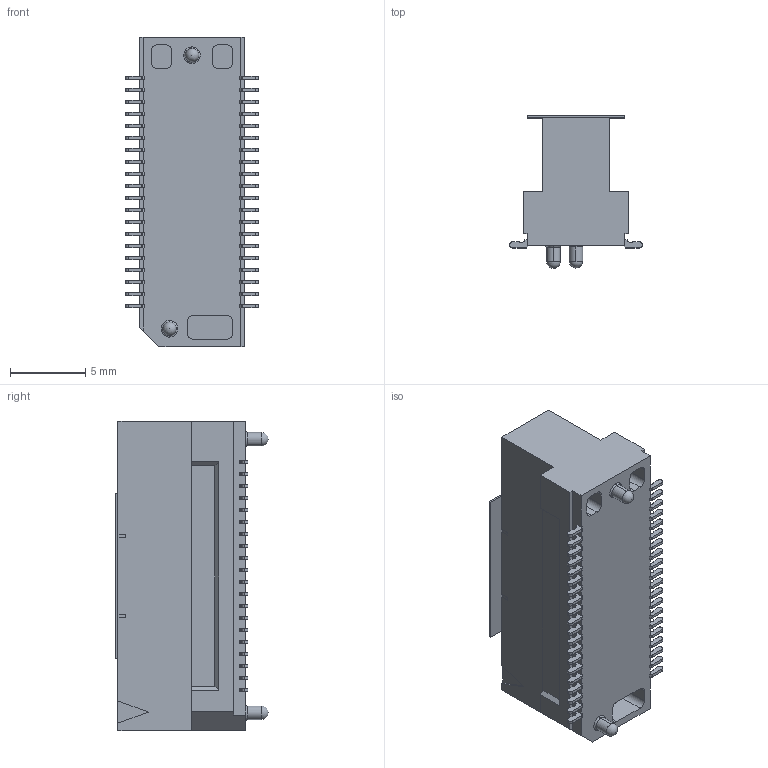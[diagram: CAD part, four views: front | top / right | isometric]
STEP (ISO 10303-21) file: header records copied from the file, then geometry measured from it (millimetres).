
FILE_DESCRIPTION (( 'STEP AP214' ), '1' );
FILE_NAME ('8208-2X20C30DPT-S.STEP', '2025-09-23T03:31:36', ( '' ), ( '' ), 'SwSTEP 2.0', 'SolidWorks 2011', '' );
FILE_SCHEMA (( 'AUTOMOTIVE_DESIGN' ));
Length unit declared in the file: millimetre
Products named in the file (1): 8208-2X20C30DPT-S
Bounding box: 8.82 x 10.15 x 20.6 mm (x, y, z)
Volume: 734 mm3; surface area: 1226.3 mm2
Topology: 2 solids, 2 shells, 1022 faces, 2913 edges, 1939 vertices
Faces by surface type: plane 640, cylinder 376, bspline 4, sphere 2
Entity records: 44580 total; most frequent: CARTESIAN_POINT 5949, ORIENTED_EDGE 5814, DIRECTION 5689, EDGE_CURVE 2907, VECTOR 2147, LINE 2147, VERTEX_POINT 1935, AXIS2_PLACEMENT_3D 1771
